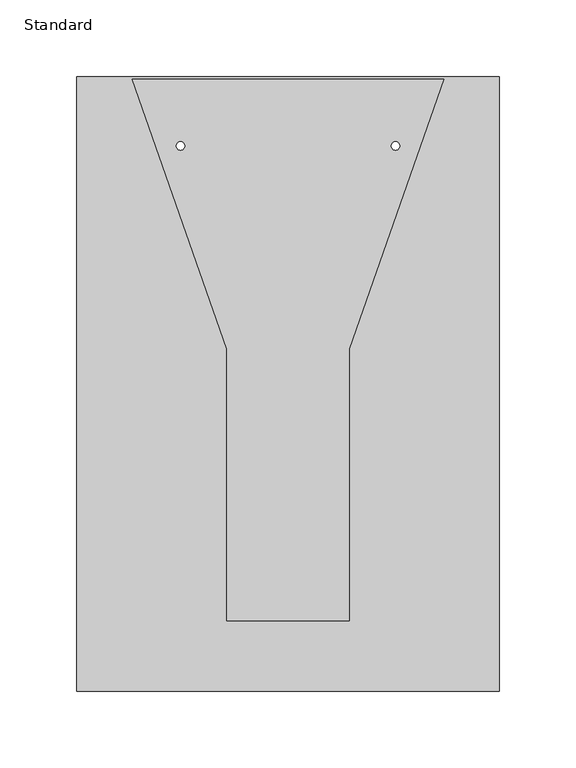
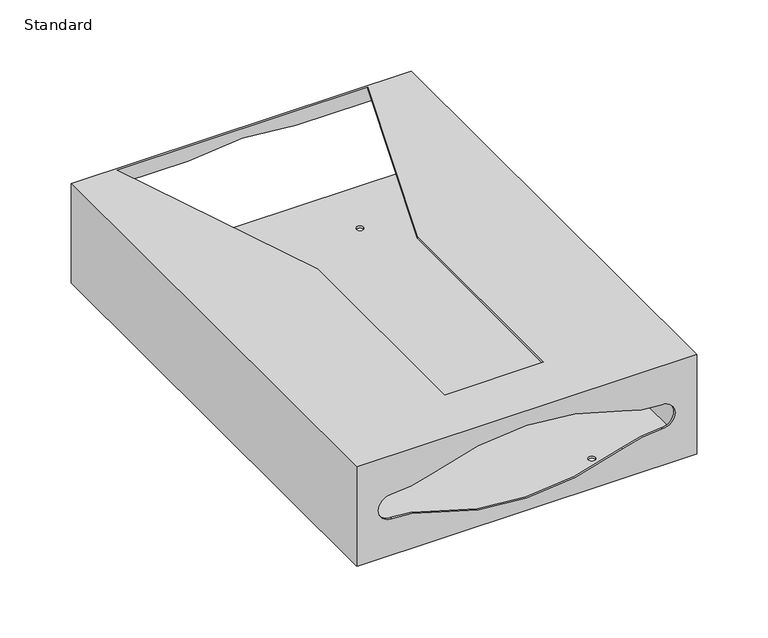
"""IFC4 building model written with IfcOpenShell, lengths in millimetres: proxy geometry, X_Paper Towel Dispenser-Wall-Duracube-Mirror Hosted : Standard."""

from ifc_helpers import new_model, si_unit, frame, origin, place, context, project, spatial, polyline, circle_curve, source, transform, mapped, element, save
from ifc_brep_helpers import plane_surface, cylinder_surface, revolved_surface, advanced_brep


def standard_bbde8fbd(model_context):
    return source(origin(), model_context, "Body", "AdvancedBrep", [
        advanced_brep(
        [(136.0, 200.0, 1.5), (-136.0, 200.0, 1.5), (-136.0, 198.5, 1.5), (-136.0, -198.5, 1.5), (136.0, -198.5, 1.5), (136.0, 198.5, 1.5), (-72.75, -170.0, 1.5), (-67.25, -170.0, 1.5), (67.25, -170.0, 1.5), (72.75, -170.0, 1.5), (-72.75, 155.0, 1.5), (-67.25, 155.0, 1.5), (67.25, 155.0, 1.5), (72.75, 155.0, 1.5), (137.5, -198.5, 0.0), (137.5, -200.0, 0.0), (-136.0, -200.0, 0.0), (-137.5, -200.0, 0.0), (-137.5, 198.5, 0.0), (-137.5, 200.0, 0.0), (137.5, 200.0, 0.0), (137.5, 198.5, 0.0), (-72.75, -170.0, 0.0), (-67.25, -170.0, 0.0), (67.25, -170.0, 0.0), (72.75, -170.0, 0.0), (-72.75, 155.0, 0.0), (-67.25, 155.0, 0.0), (67.25, 155.0, 0.0), (72.75, 155.0, 0.0), (137.5, 200.0, 85.0), (-137.5, 200.0, 85.0), (125.0, 200.0, 12.5), (125.0, 200.0, 72.5), (43.6494532, 200.0, 72.5), (-43.6494532, 200.0, 72.5), (-125.0, 200.0, 72.5), (-125.0, 200.0, 12.5), (-137.5, -200.0, 85.0), (137.5, -200.0, 83.5), (137.5, -200.0, 85.0), (-77.3089253, -200.0, 57.7778446), (77.3089253, -200.0, 57.7778446), (109.4192635, -200.0, 51.9068112), (109.4192635, -200.0, 31.0397133), (77.3089253, -200.0, 25.16868), (-77.3089253, -200.0, 25.16868), (-109.4192635, -200.0, 31.0397133), (-109.4192635, -200.0, 51.9068112), (136.0, -198.5, 83.5), (136.0, 198.5, 83.5), (-40.0, -154.1, 85.0), (-40.0, 23.0213291, 85.0), (-101.2811657, 198.5, 85.0), (101.2811657, 198.5, 85.0), (40.0, 23.0213291, 85.0), (40.0, -154.1, 85.0), (-136.0, -198.5, 83.5), (-77.3089253, -198.5, 57.7778446), (-109.4192635, -198.5, 51.9068112), (-109.4192635, -198.5, 31.0397133), (-77.3089253, -198.5, 25.16868), (77.3089253, -198.5, 25.16868), (109.4192635, -198.5, 31.0397133), (109.4192635, -198.5, 51.9068112), (77.3089253, -198.5, 57.7778446), (-40.0, -154.1, 83.5), (40.0, -154.1, 83.5), (40.0, 23.0213291, 83.5), (101.2811657, 198.5, 83.5), (-136.0, 198.5, 83.5), (-101.2811657, 198.5, 83.5), (-40.0, 23.0213291, 83.5), (-125.0, 198.5, 12.5), (-125.0, 198.5, 72.5), (-43.6494532, 198.5, 72.5), (43.6494532, 198.5, 72.5), (125.0, 198.5, 72.5), (125.0, 198.5, 12.5)],
        [
            (0, 1),
            (1, 2),
            (2, 3),
            (3, 4),
            (4, 5),
            (5, 0),
            (6, 7, circle_curve(frame((-70.0, -170.0, 1.5), z_axis=(0.0, 0.0, -1.0), x_axis=(1.0, 0.0, 0.0)), 2.75)),
            (7, 6, circle_curve(frame((-70.0, -170.0, 1.5), z_axis=(0.0, 0.0, -1.0), x_axis=(1.0, 0.0, 0.0)), 2.75)),
            (8, 9, circle_curve(frame((70.0, -170.0, 1.5), z_axis=(0.0, 0.0, -1.0), x_axis=(1.0, 0.0, 0.0)), 2.75)),
            (9, 8, circle_curve(frame((70.0, -170.0, 1.5), z_axis=(0.0, 0.0, -1.0), x_axis=(1.0, 0.0, 0.0)), 2.75)),
            (10, 11, circle_curve(frame((-70.0, 155.0, 1.5), z_axis=(0.0, 0.0, -1.0), x_axis=(1.0, 0.0, 0.0)), 2.75)),
            (11, 10, circle_curve(frame((-70.0, 155.0, 1.5), z_axis=(0.0, 0.0, -1.0), x_axis=(1.0, 0.0, 0.0)), 2.75)),
            (12, 13, circle_curve(frame((70.0, 155.0, 1.5), z_axis=(0.0, 0.0, -1.0), x_axis=(1.0, 0.0, 0.0)), 2.75)),
            (13, 12, circle_curve(frame((70.0, 155.0, 1.5), z_axis=(0.0, 0.0, -1.0), x_axis=(1.0, 0.0, 0.0)), 2.75)),
            (14, 15),
            (15, 16),
            (16, 17),
            (17, 18),
            (18, 19),
            (19, 20),
            (20, 21),
            (21, 14),
            (22, 23, circle_curve(frame((-70.0, -170.0, 0.0), z_axis=(0.0, 0.0, 1.0), x_axis=(1.0, 0.0, 0.0)), 2.75)),
            (23, 22, circle_curve(frame((-70.0, -170.0, 0.0), z_axis=(0.0, 0.0, 1.0), x_axis=(1.0, 0.0, 0.0)), 2.75)),
            (24, 25, circle_curve(frame((70.0, -170.0, 0.0), z_axis=(0.0, 0.0, 1.0), x_axis=(1.0, 0.0, 0.0)), 2.75)),
            (25, 24, circle_curve(frame((70.0, -170.0, 0.0), z_axis=(0.0, 0.0, 1.0), x_axis=(1.0, 0.0, 0.0)), 2.75)),
            (26, 27, circle_curve(frame((-70.0, 155.0, 0.0), z_axis=(0.0, 0.0, 1.0), x_axis=(1.0, 0.0, 0.0)), 2.75)),
            (27, 26, circle_curve(frame((-70.0, 155.0, 0.0), z_axis=(0.0, 0.0, 1.0), x_axis=(1.0, 0.0, 0.0)), 2.75)),
            (28, 29, circle_curve(frame((70.0, 155.0, 0.0), z_axis=(0.0, 0.0, 1.0), x_axis=(1.0, 0.0, 0.0)), 2.75)),
            (29, 28, circle_curve(frame((70.0, 155.0, 0.0), z_axis=(0.0, 0.0, 1.0), x_axis=(1.0, 0.0, 0.0)), 2.75)),
            (30, 20),
            (19, 31),
            (31, 30),
            (0, 32),
            (32, 33),
            (33, 34),
            (34, 35, circle_curve(frame((0.0, 200.0, -138.2259285), z_axis=(0.0, -1.0, 0.0), x_axis=(-1.0, 0.0, 0.0)), 215.1991908)),
            (35, 36),
            (36, 37),
            (37, 1),
            (17, 38),
            (38, 31),
            (15, 39),
            (39, 40),
            (40, 38),
            (41, 42, circle_curve(frame((0.0, -200.0, -138.2259285), z_axis=(0.0, 1.0, 0.0), x_axis=(-1.0, 0.0, 0.0)), 210.6991908)),
            (42, 43, circle_curve(frame((108.2384755, -200.0, 136.1945151), z_axis=(0.0, -1.0, 0.0), x_axis=(-1.0, 0.0, 0.0)), 84.2959743)),
            (43, 44, circle_curve(frame((109.5654273, -200.0, 41.4732623), z_axis=(0.0, 1.0, 0.0), x_axis=(-1.0, 0.0, 0.0)), 10.4345727)),
            (44, 45, circle_curve(frame((108.2384755, -200.0, -53.2479906), z_axis=(0.0, -1.0, 0.0), x_axis=(-1.0, 0.0, 0.0)), 84.2959743)),
            (45, 46, circle_curve(frame((0.0, -200.0, 221.172453), z_axis=(0.0, 1.0, 0.0), x_axis=(-1.0, 0.0, 0.0)), 210.6991908)),
            (46, 47, circle_curve(frame((-108.2384755, -200.0, -53.2479906), z_axis=(0.0, -1.0, 0.0), x_axis=(-1.0, 0.0, 0.0)), 84.2959743)),
            (47, 48, circle_curve(frame((-109.5654273, -200.0, 41.4732623), z_axis=(0.0, 1.0, 0.0), x_axis=(-1.0, 0.0, 0.0)), 10.4345727)),
            (48, 41, circle_curve(frame((-108.2384755, -200.0, 136.1945151), z_axis=(0.0, -1.0, 0.0), x_axis=(-1.0, 0.0, 0.0)), 84.2959743)),
            (30, 40),
            (6, 22),
            (23, 7),
            (8, 24),
            (25, 9),
            (10, 26),
            (27, 11),
            (12, 28),
            (29, 13),
            (4, 49),
            (49, 50),
            (50, 5),
            (51, 52),
            (52, 53),
            (53, 54),
            (54, 55),
            (55, 56),
            (56, 51),
            (3, 57),
            (57, 49),
            (58, 59, circle_curve(frame((-108.2384755, -198.5, 136.1945151), z_axis=(0.0, 1.0, 0.0), x_axis=(-1.0, 0.0, 0.0)), 84.2959743)),
            (59, 60, circle_curve(frame((-109.5654273, -198.5, 41.4732623), z_axis=(0.0, -1.0, 0.0), x_axis=(-1.0, 0.0, 0.0)), 10.4345727)),
            (60, 61, circle_curve(frame((-108.2384755, -198.5, -53.2479906), z_axis=(0.0, 1.0, 0.0), x_axis=(-1.0, 0.0, 0.0)), 84.2959743)),
            (61, 62, circle_curve(frame((0.0, -198.5, 221.172453), z_axis=(0.0, -1.0, 0.0), x_axis=(-1.0, 0.0, 0.0)), 210.6991908)),
            (62, 63, circle_curve(frame((108.2384755, -198.5, -53.2479906), z_axis=(0.0, 1.0, 0.0), x_axis=(-1.0, 0.0, 0.0)), 84.2959743)),
            (63, 64, circle_curve(frame((109.5654273, -198.5, 41.4732623), z_axis=(0.0, -1.0, 0.0), x_axis=(-1.0, 0.0, 0.0)), 10.4345727)),
            (64, 65, circle_curve(frame((108.2384755, -198.5, 136.1945151), z_axis=(0.0, 1.0, 0.0), x_axis=(-1.0, 0.0, 0.0)), 84.2959743)),
            (65, 58, circle_curve(frame((0.0, -198.5, -138.2259285), z_axis=(0.0, -1.0, 0.0), x_axis=(-1.0, 0.0, 0.0)), 210.6991908)),
            (58, 41),
            (48, 59),
            (47, 60),
            (46, 61),
            (45, 62),
            (44, 63),
            (43, 64),
            (42, 65),
            (66, 67),
            (67, 68),
            (68, 69),
            (69, 50),
            (57, 70),
            (70, 71),
            (71, 72),
            (72, 66),
            (72, 52),
            (51, 66),
            (71, 53),
            (68, 55),
            (54, 69),
            (67, 56),
            (2, 70),
            (73, 74),
            (74, 75),
            (75, 76, circle_curve(frame((0.0, 198.5, -138.2259285), z_axis=(0.0, 1.0, 0.0), x_axis=(-1.0, 0.0, 0.0)), 215.1991908)),
            (76, 77),
            (77, 78),
            (78, 5),
            (2, 73),
            (78, 32),
            (77, 33),
            (76, 34),
            (75, 35),
            (74, 36),
            (73, 37),
        ],
        [
            plane_surface(frame((-137.5, 200.0, 1.5), z_axis=(0.0, 0.0, 1.0), x_axis=(-1.0, 0.0, 0.0))),
            plane_surface(frame((-137.5, 200.0, 0.0), z_axis=(0.0, 0.0, -1.0), x_axis=(1.0, 0.0, 0.0))),
            plane_surface(frame((137.5, 200.0, 1.5), z_axis=(0.0, 1.0, 0.0), x_axis=(0.0, 0.0, -1.0))),
            plane_surface(frame((-137.5, 200.0, 1.5), z_axis=(-1.0, 0.0, 0.0), x_axis=(0.0, 0.0, -1.0))),
            plane_surface(frame((-137.5, -200.0, 1.5), z_axis=(0.0, -1.0, 0.0), x_axis=(0.0, 0.0, -1.0))),
            plane_surface(frame((137.5, -200.0, 1.5), z_axis=(1.0, 0.0, 0.0), x_axis=(0.0, 0.0, -1.0))),
            revolved_surface(polyline([(-67.25, -170.0, 0.0), (-67.25, -170.0, 1.5)]), (-70.0, -170.0, 0.0), (0.0, 0.0, -1.0)),
            revolved_surface(polyline([(72.75, -170.0, 0.0), (72.75, -170.0, 1.5)]), (70.0, -170.0, 0.0), (0.0, 0.0, -1.0)),
            revolved_surface(polyline([(-67.25, 155.0, 0.0), (-67.25, 155.0, 1.5)]), (-70.0, 155.0, 0.0), (0.0, 0.0, -1.0)),
            revolved_surface(polyline([(72.75, 155.0, 0.0), (72.75, 155.0, 1.5)]), (70.0, 155.0, 0.0), (0.0, 0.0, -1.0)),
            plane_surface(frame((136.0, -200.0, 85.0), z_axis=(-1.0, 0.0, 0.0), x_axis=(0.0, 0.0, 1.0))),
            plane_surface(frame((137.5, 200.0, 85.0), z_axis=(0.0, 0.0, 1.0), x_axis=(-1.0, 0.0, 0.0))),
            plane_surface(frame((137.5, -198.5, 0.0), z_axis=(0.0, 1.0, 0.0), x_axis=(-1.0, 0.0, 0.0))),
            cylinder_surface(frame((-108.2384755, -200.0, 136.1945151), z_axis=(0.0, -1.0, 0.0), x_axis=(-1.0, 0.0, 0.0)), 84.2959743),
            revolved_surface(polyline([(-120.0, -198.5, 41.4732623), (-120.0, -200.0, 41.4732623)]), (-109.5654273, -200.0, 41.4732623), (0.0, 1.0, 0.0)),
            cylinder_surface(frame((-108.2384755, -200.0, -53.2479906), z_axis=(0.0, -1.0, 0.0), x_axis=(-1.0, 0.0, 0.0)), 84.2959743),
            revolved_surface(polyline([(-210.6991908, -198.5, 221.172453), (-210.6991908, -200.0, 221.172453)]), (0.0, -200.0, 221.172453), (0.0, 1.0, 0.0)),
            cylinder_surface(frame((108.2384755, -200.0, -53.2479906), z_axis=(0.0, -1.0, 0.0), x_axis=(-1.0, 0.0, 0.0)), 84.2959743),
            revolved_surface(polyline([(99.13085459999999, -198.5, 41.4732623), (99.13085459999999, -200.0, 41.4732623)]), (109.5654273, -200.0, 41.4732623), (0.0, 1.0, 0.0)),
            cylinder_surface(frame((108.2384755, -200.0, 136.1945151), z_axis=(0.0, -1.0, 0.0), x_axis=(-1.0, 0.0, 0.0)), 84.2959743),
            revolved_surface(polyline([(-210.6991908, -198.5, -138.2259285), (-210.6991908, -200.0, -138.2259285)]), (0.0, -200.0, -138.2259285), (0.0, 1.0, 0.0)),
            plane_surface(frame((-40.0, -154.1, 83.5), z_axis=(0.0, 0.0, -1.0), x_axis=(0.0, -1.0, 0.0))),
            plane_surface(frame((-40.0, -154.1, 85.0), z_axis=(1.0, 0.0, 0.0), x_axis=(0.0, 0.0, -1.0))),
            plane_surface(frame((-40.0, 23.0213291, 85.0), z_axis=(0.9440868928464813, 0.32969673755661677, 0.0), x_axis=(0.0, 0.0, -1.0))),
            plane_surface(frame((101.805, 200.0, 85.0), z_axis=(-0.9440868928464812, 0.32969673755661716, 0.0), x_axis=(0.0, 0.0, -1.0))),
            plane_surface(frame((40.0, 23.0213291, 85.0), z_axis=(-1.0, 0.0, 0.0), x_axis=(0.0, 0.0, -1.0))),
            plane_surface(frame((40.0, -154.1, 85.0), z_axis=(0.0, 1.0, 0.0), x_axis=(0.0, 0.0, -1.0))),
            plane_surface(frame((-136.0, 200.0, 85.0), z_axis=(1.0, 0.0, 0.0), x_axis=(0.0, -1.0, 0.0))),
            plane_surface(frame((137.5, 198.5, 0.0), z_axis=(0.0, -1.0, 0.0), x_axis=(0.7071067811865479, 0.0, -0.7071067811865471))),
            plane_surface(frame((137.5, 200.0, 0.0), z_axis=(-0.7071067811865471, 0.0, -0.7071067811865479), x_axis=(0.0, -1.0, 0.0))),
            plane_surface(frame((125.0, 200.0, 12.5), z_axis=(-1.0, 0.0, 0.0), x_axis=(0.0, -1.0, 0.0))),
            plane_surface(frame((125.0, 200.0, 72.5), z_axis=(0.0, 0.0, -1.0), x_axis=(0.0, -1.0, 0.0))),
            revolved_surface(polyline([(-215.1991908, 198.5, -138.2259285), (-215.1991908, 200.0, -138.2259285)]), (0.0, 198.5, -138.2259285), (0.0, -1.0, 0.0)),
            plane_surface(frame((-43.6494532, 200.0, 72.5), z_axis=(0.0, 0.0, -1.0), x_axis=(0.0, -1.0, 0.0))),
            plane_surface(frame((-125.0, 200.0, 72.5), z_axis=(1.0, 0.0, 0.0), x_axis=(0.0, -1.0, 0.0))),
            plane_surface(frame((-125.0, 200.0, 12.5), z_axis=(0.707106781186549, 0.0, -0.7071067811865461), x_axis=(0.0, -1.0, 0.0))),
        ],
        [
            (0, [[1, 2, 3, 4, 5, 6], [7, 8], [9, 10], [11, 12], [13, 14]]),
            (1, [[15, 16, 17, 18, 19, 20, 21, 22], [23, 24], [25, 26], [27, 28], [29, 30]]),
            (2, [[31, -20, 32, 33], [-1, 34, 35, 36, 37, 38, 39, 40]]),
            (3, [[41, 42, -32, -19, -18]]),
            (4, [[43, 44, 45, -41, -17, -16], [46, 47, 48, 49, 50, 51, 52, 53]]),
            (5, [[-15, -22, -21, -31, 54, -44, -43]]),
            (6, [[-7, 55, -24, 56]]),
            (6, [[-8, -56, -23, -55]]),
            (7, [[-9, 57, -26, 58]]),
            (7, [[-10, -58, -25, -57]]),
            (8, [[-11, 59, -28, 60]]),
            (8, [[-12, -60, -27, -59]]),
            (9, [[-13, 61, -30, 62]]),
            (9, [[-14, -62, -29, -61]]),
            (10, [[63, 64, 65, -5]]),
            (11, [[-33, -42, -45, -54], [66, 67, 68, 69, 70, 71]]),
            (12, [[-63, -4, 72, 73], [74, 75, 76, 77, 78, 79, 80, 81]]),
            (13, [[-74, 82, -53, 83]]),
            (14, [[-75, -83, -52, 84]]),
            (15, [[-76, -84, -51, 85]]),
            (16, [[-77, -85, -50, 86]]),
            (17, [[-78, -86, -49, 87]]),
            (18, [[-79, -87, -48, 88]]),
            (19, [[-80, -88, -47, 89]]),
            (20, [[-81, -89, -46, -82]]),
            (21, [[90, 91, 92, 93, -64, -73, 94, 95, 96, 97]]),
            (22, [[-97, 98, -66, 99]]),
            (23, [[-98, -96, 100, -67]]),
            (24, [[101, -69, 102, -92]]),
            (25, [[-91, 103, -70, -101]]),
            (26, [[-90, -99, -71, -103]]),
            (27, [[-72, -3, 104, -94]]),
            (28, [[105, 106, 107, 108, 109, 110, -65, -93, -102, -68, -100, -95, -104, 111]]),
            (29, [[112, -34, -6, -110]]),
            (30, [[-109, 113, -35, -112]]),
            (31, [[-108, 114, -36, -113]]),
            (32, [[-107, 115, -37, -114]]),
            (33, [[-106, 116, -38, -115]]),
            (34, [[-105, 117, -39, -116]]),
            (35, [[-117, -111, -2, -40]]),
        ],
    ),
    ])


if __name__ == "__main__":
    model = new_model("IFC4")
    model_context = context("Model", 3, world=origin())
    ifc_project = project(units=[si_unit("LENGTHUNIT", "METRE", prefix="MILLI")], contexts=[model_context])
    site = spatial("IfcSite", under=ifc_project)
    building = spatial("IfcBuilding", under=site)
    placement = place(None, origin())
    standard_shape = standard_bbde8fbd(model_context)
    element("IfcBuildingElementProxy", 1, Name="X_Paper Towel Dispenser-Wall-Duracube-Mirror Hosted : Standard", ObjectType="X_Paper Towel Dispenser-Wall-Duracube-Mirror Hosted : Standard", at=placement, inside=building, context=model_context, shape_type="MappedRepresentation", body=[
        mapped(standard_shape, transform((0.0, 0.0, 0.0), x_axis=(1.0, 0.0, 0.0), y_axis=(0.0, 1.0, 0.0), z_axis=(0.0, 0.0, 1.0))),
    ])
    save(model, "model.ifc")
